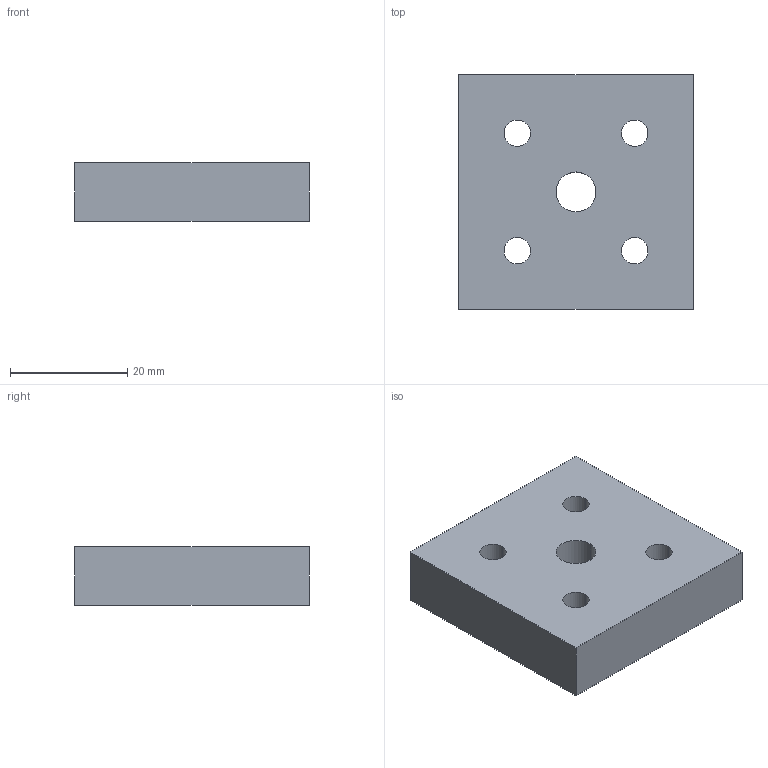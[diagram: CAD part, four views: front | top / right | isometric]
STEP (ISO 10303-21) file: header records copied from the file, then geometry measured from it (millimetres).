
FILE_DESCRIPTION (( 'STEP AP203' ), '1' );
FILE_NAME ('フットベース(アジャスタープレート).STEP', '2020-11-11T02:39:02', ( '' ), ( '' ), 'SwSTEP 2.0', 'SolidWorks 2017', '' );
FILE_SCHEMA (( 'CONFIG_CONTROL_DESIGN' ));
Length unit declared in the file: millimetre
Products named in the file (1): フットベース(アジャスタープレート)
Bounding box: 40 x 40 x 10 mm (x, y, z)
Volume: 14382.2 mm3; surface area: 5577.2 mm2
Topology: 1 solids, 1 shells, 28 faces, 66 edges, 44 vertices
Faces by surface type: cylinder 18, plane 10
Entity records: 923 total; most frequent: DIRECTION 160, CARTESIAN_POINT 139, ORIENTED_EDGE 132, EDGE_CURVE 66, AXIS2_PLACEMENT_3D 65, VERTEX_POINT 44, EDGE_LOOP 42, CIRCLE 36
